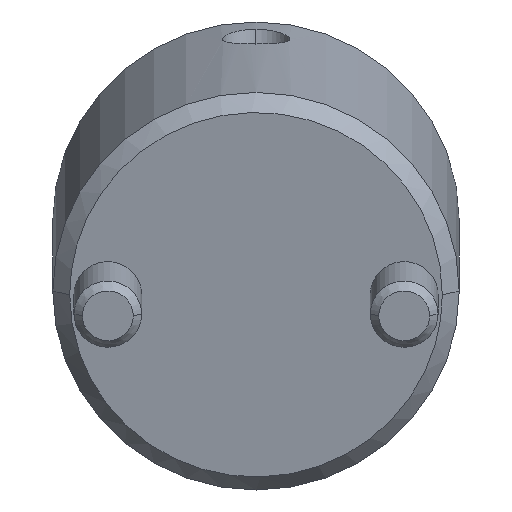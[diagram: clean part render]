
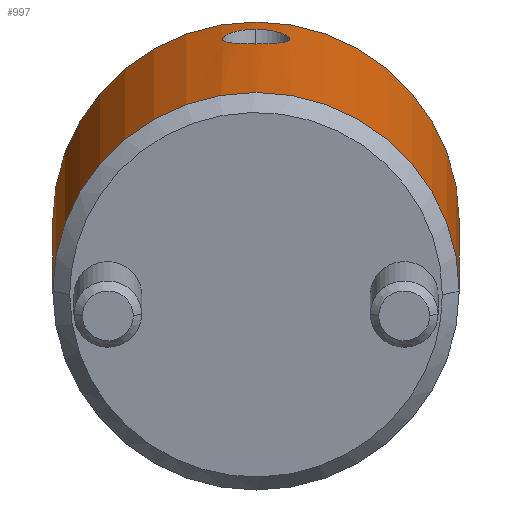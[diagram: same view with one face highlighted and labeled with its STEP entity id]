
A CAD part, front view. The second image highlights one B-rep face of the part: STEP entity #997.
In plain terms, the highlighted cylindrical face has radius 12 mm (diameter 24 mm), a partial arc.
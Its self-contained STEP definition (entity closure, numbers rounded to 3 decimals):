
#760=CARTESIAN_POINT('Vertex',(0.,12.,1.)) ;
#763=CARTESIAN_POINT('Axis2P3D Location',(0.,0.,1.)) ;
#767=CARTESIAN_POINT('Vertex',(0.,-12.,1.)) ;
#907=CARTESIAN_POINT('Axis2P3D Location',(0.,0.,-1.1)) ;
#912=CARTESIAN_POINT('Line Origine',(0.,12.,-1.1)) ;
#916=CARTESIAN_POINT('Vertex',(0.,12.,21.)) ;
#919=CARTESIAN_POINT('Axis2P3D Location',(0.,0.,21.)) ;
#923=CARTESIAN_POINT('Vertex',(0.,-12.,21.)) ;
#926=CARTESIAN_POINT('Line Origine',(0.,-12.,-1.1)) ;
#938=CARTESIAN_POINT('Control Point',(12.,0.,18.948)) ;
#939=CARTESIAN_POINT('Control Point',(12.,0.344,18.948)) ;
#940=CARTESIAN_POINT('Control Point',(11.988,0.679,18.871)) ;
#941=CARTESIAN_POINT('Control Point',(11.964,0.999,18.717)) ;
#942=CARTESIAN_POINT('Control Point',(11.922,1.385,18.416)) ;
#943=CARTESIAN_POINT('Control Point',(11.884,1.669,18.018)) ;
#944=CARTESIAN_POINT('Control Point',(11.873,1.742,17.896)) ;
#945=CARTESIAN_POINT('Control Point',(11.854,1.867,17.64)) ;
#946=CARTESIAN_POINT('Control Point',(11.841,1.947,17.367)) ;
#947=CARTESIAN_POINT('Control Point',(11.836,1.976,17.226)) ;
#948=CARTESIAN_POINT('Control Point',(11.83,2.01,16.946)) ;
#949=CARTESIAN_POINT('Control Point',(11.833,1.997,16.665)) ;
#950=CARTESIAN_POINT('Control Point',(11.836,1.979,16.526)) ;
#951=CARTESIAN_POINT('Control Point',(11.846,1.919,16.253)) ;
#952=CARTESIAN_POINT('Control Point',(11.862,1.814,15.996)) ;
#953=CARTESIAN_POINT('Control Point',(11.872,1.751,15.874)) ;
#954=CARTESIAN_POINT('Control Point',(11.911,1.48,15.443)) ;
#955=CARTESIAN_POINT('Control Point',(11.957,1.082,15.11)) ;
#956=CARTESIAN_POINT('Control Point',(11.986,0.734,14.942)) ;
#957=CARTESIAN_POINT('Control Point',(12.,0.372,14.859)) ;
#958=CARTESIAN_POINT('Control Point',(12.,0.,14.859)) ;
#959=CARTESIAN_POINT('Vertex',(12.,0.,18.948)) ;
#961=CARTESIAN_POINT('Vertex',(12.,0.,14.859)) ;
#965=CARTESIAN_POINT('Control Point',(12.,0.,14.859)) ;
#966=CARTESIAN_POINT('Control Point',(12.,-0.139,14.859)) ;
#967=CARTESIAN_POINT('Control Point',(11.998,-0.277,14.87)) ;
#968=CARTESIAN_POINT('Control Point',(11.994,-0.413,14.894)) ;
#969=CARTESIAN_POINT('Control Point',(11.982,-0.682,14.964)) ;
#970=CARTESIAN_POINT('Control Point',(11.965,-0.934,15.08)) ;
#971=CARTESIAN_POINT('Control Point',(11.954,-1.056,15.149)) ;
#972=CARTESIAN_POINT('Control Point',(11.932,-1.283,15.305)) ;
#973=CARTESIAN_POINT('Control Point',(11.909,-1.48,15.498)) ;
#974=CARTESIAN_POINT('Control Point',(11.897,-1.569,15.603)) ;
#975=CARTESIAN_POINT('Control Point',(11.864,-1.812,15.942)) ;
#976=CARTESIAN_POINT('Control Point',(11.839,-1.961,16.335)) ;
#977=CARTESIAN_POINT('Control Point',(11.83,-2.014,16.615)) ;
#978=CARTESIAN_POINT('Control Point',(11.829,-2.021,17.04)) ;
#979=CARTESIAN_POINT('Control Point',(11.845,-1.924,17.454)) ;
#980=CARTESIAN_POINT('Control Point',(11.852,-1.881,17.589)) ;
#981=CARTESIAN_POINT('Control Point',(11.869,-1.771,17.852)) ;
#982=CARTESIAN_POINT('Control Point',(11.891,-1.619,18.093)) ;
#983=CARTESIAN_POINT('Control Point',(11.902,-1.532,18.208)) ;
#984=CARTESIAN_POINT('Control Point',(11.931,-1.299,18.468)) ;
#985=CARTESIAN_POINT('Control Point',(11.959,-1.018,18.673)) ;
#986=CARTESIAN_POINT('Control Point',(11.973,-0.837,18.772)) ;
#987=CARTESIAN_POINT('Control Point',(11.989,-0.56,18.88)) ;
#988=CARTESIAN_POINT('Control Point',(11.997,-0.269,18.932)) ;
#989=CARTESIAN_POINT('Control Point',(11.999,-0.18,18.943)) ;
#990=CARTESIAN_POINT('Control Point',(12.,-0.09,18.948)) ;
#991=CARTESIAN_POINT('Control Point',(12.,0.,18.948)) ;
#764=DIRECTION('Axis2P3D Direction',(0.,0.,1.)) ;
#908=DIRECTION('Axis2P3D Direction',(0.,-0.,1.)) ;
#909=DIRECTION('Axis2P3D XDirection',(0.,-1.,0.)) ;
#913=DIRECTION('Vector Direction',(0.,0.,1.)) ;
#920=DIRECTION('Axis2P3D Direction',(0.,-0.,1.)) ;
#927=DIRECTION('Vector Direction',(0.,0.,1.)) ;
#765=AXIS2_PLACEMENT_3D('Circle Axis2P3D',#763,#764,$) ;
#910=AXIS2_PLACEMENT_3D('Cylinder Axis2P3D',#907,#908,#909) ;
#921=AXIS2_PLACEMENT_3D('Circle Axis2P3D',#919,#920,$) ;
#932=ORIENTED_EDGE('',*,*,#918,.F.) ;
#933=ORIENTED_EDGE('',*,*,#925,.T.) ;
#934=ORIENTED_EDGE('',*,*,#930,.T.) ;
#935=ORIENTED_EDGE('',*,*,#769,.F.) ;
#994=ORIENTED_EDGE('',*,*,#963,.T.) ;
#995=ORIENTED_EDGE('',*,*,#992,.T.) ;
#996=FACE_BOUND('',#993,.T.) ;
#914=VECTOR('Line Direction',#913,1.) ;
#928=VECTOR('Line Direction',#927,1.) ;
#997=ADVANCED_FACE('MANIFOLD_SOLID_BREP #1094',(#936,#996),#911,.T.) ;
#937=B_SPLINE_CURVE_WITH_KNOTS('',5,(#938,#939,#940,#941,#942,#943,#944,#945,#946,#947,#948,#949,#950,#951,#952,#953,#954,#955,#956,#957,#958),.UNSPECIFIED.,.F.,.U.,(6,3,3,3,3,3,6),(0.,2.427,3.431,4.427,5.412,6.39,9.01),.UNSPECIFIED.) ;
#964=B_SPLINE_CURVE_WITH_KNOTS('',5,(#965,#966,#967,#968,#969,#970,#971,#972,#973,#974,#975,#976,#977,#978,#979,#980,#981,#982,#983,#984,#985,#986,#987,#988,#989,#990,#991),.UNSPECIFIED.,.F.,.U.,(6,3,3,3,3,3,3,3,6),(0.,0.981,1.96,2.938,4.906,5.909,6.91,8.376,9.012),.UNSPECIFIED.) ;
#766=CIRCLE('generated circle',#765,12.) ;
#922=CIRCLE('generated circle',#921,12.) ;
#911=CYLINDRICAL_SURFACE('generated cylinder',#910,12.) ;
#769=EDGE_CURVE('',#761,#768,#766,.F.) ;
#918=EDGE_CURVE('',#917,#761,#915,.F.) ;
#925=EDGE_CURVE('',#917,#924,#922,.F.) ;
#930=EDGE_CURVE('',#924,#768,#929,.F.) ;
#963=EDGE_CURVE('',#960,#962,#937,.T.) ;
#992=EDGE_CURVE('',#962,#960,#964,.T.) ;
#931=EDGE_LOOP('',(#932,#933,#934,#935)) ;
#993=EDGE_LOOP('',(#994,#995)) ;
#936=FACE_OUTER_BOUND('',#931,.T.) ;
#915=LINE('Line',#912,#914) ;
#929=LINE('Line',#926,#928) ;
#761=VERTEX_POINT('',#760) ;
#768=VERTEX_POINT('',#767) ;
#917=VERTEX_POINT('',#916) ;
#924=VERTEX_POINT('',#923) ;
#960=VERTEX_POINT('',#959) ;
#962=VERTEX_POINT('',#961) ;
